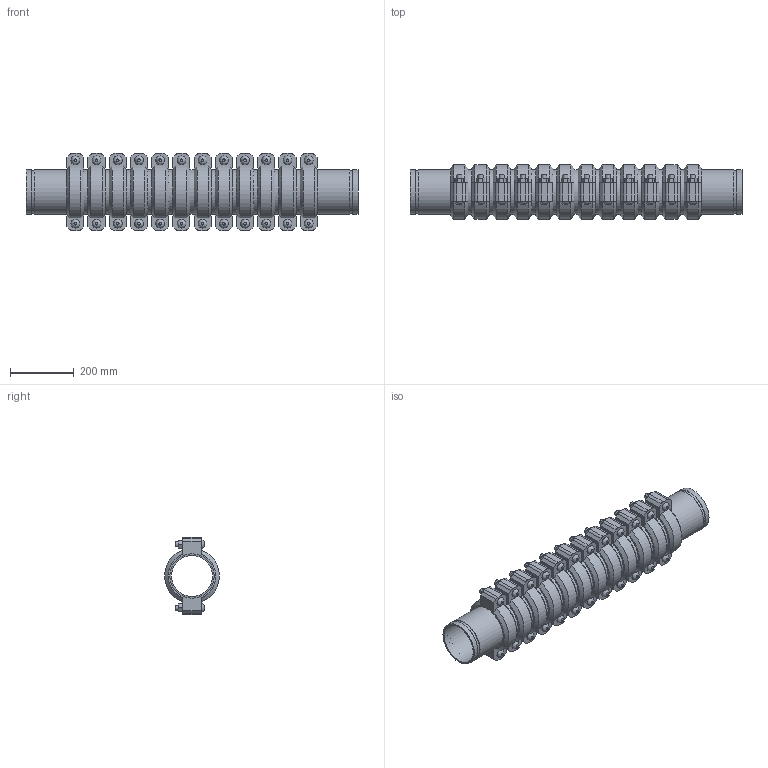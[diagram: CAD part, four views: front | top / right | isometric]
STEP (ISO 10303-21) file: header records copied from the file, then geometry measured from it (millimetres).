
FILE_DESCRIPTION(/* description */ ('VIC EXPANSION JOINT 12 COUPLINGS EXPANDED STYLE 155 (OGS)','CAx-IF Rec.Pracs.---Representation and Presentation of Product Manufacturing Information (PMI)---4.0---2014-10-13'),/* implementation_level */ '2;1');
FILE_NAME(/* name */ 'C:\Users\kkamble\AppData\Roaming\Autodesk\ApplicationPlugins\Victaulic.Temp\A519\Victaulic_IPS_Expansion Joint_Expanded_12 Couplings_Style 155 (OGS)_05.0 (139.7) (125).stp',/* time_stamp */ '2021-06-26T23:54:39+02:00',/* author */ ('kkamble'),/* organization */ ('Victaulic'),/* preprocessor_version */ 'ST-DEVELOPER v17.2',/* originating_system */ 'Autodesk Inventor 2019',/* authorisation */ '');
FILE_SCHEMA (('AP242_MANAGED_MODEL_BASED_3D_ENGINEERING_MIM_LF { 1 0 10303 442 1 1 4 }'));
Length unit declared in the file: inch
Products named in the file (4): 155-05.0 (139.7); Nipple-05.0 (139.7); Nipple-05.0 (139.7)_1; 075-05.0 (139.7)
Assembly tree (25 placements, depth 2):
  155-05.0 (139.7)
    Nipple-05.0 (139.7)  x2
    Nipple-05.0 (139.7)_1  x11
    075-05.0 (139.7)  x12
Bounding box: 1045.21 x 172.14 x 243.59 mm (x, y, z)
Volume: 9586819.6 mm3; surface area: 2130727.7 mm2
Topology: 25 solids, 49 shells, 840 faces, 1986 edges, 1392 vertices
Faces by surface type: plane 510, cylinder 258, cone 48, bspline 24
Full cylindrical faces by diameter (mm): 15.875 x48, 17.424 x24, 129.388 x13, 133.35 x12, 135.484 x26, 139.7 x63
Entity records: 2913 total; most frequent: CARTESIAN_POINT 509, DIRECTION 493, ORIENTED_EDGE 386, AXIS2_PLACEMENT_3D 200, EDGE_CURVE 193, VERTEX_POINT 138, EDGE_LOOP 107, LINE 93
